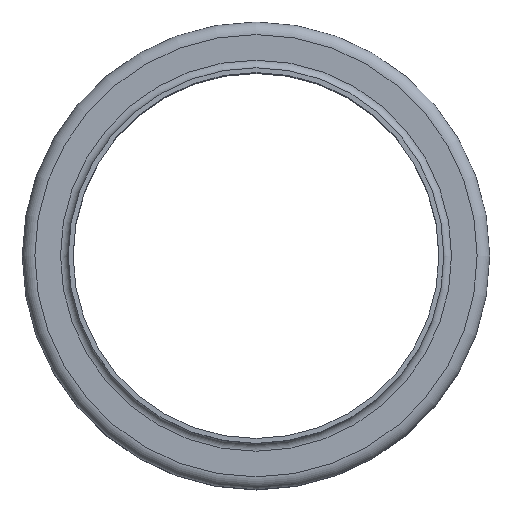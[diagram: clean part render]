
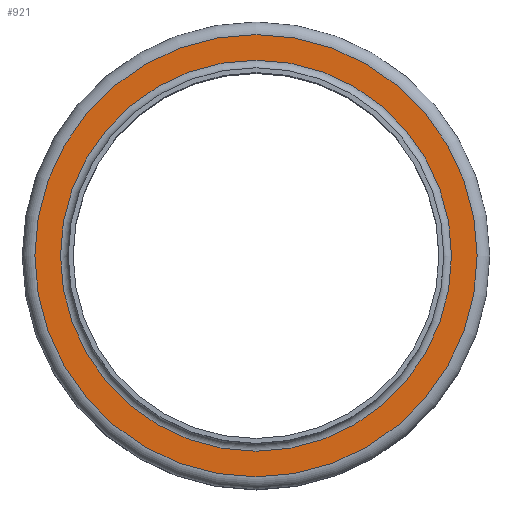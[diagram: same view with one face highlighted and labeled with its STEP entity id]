
A CAD part, top view. The second image highlights one B-rep face of the part: STEP entity #921.
In plain terms, the highlighted planar face has unit normal (0, 0, 1).
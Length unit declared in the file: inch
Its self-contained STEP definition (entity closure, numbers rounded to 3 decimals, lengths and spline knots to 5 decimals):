
#98=FACE_BOUND('',#272,.T.);
#165=FACE_OUTER_BOUND('',#271,.T.);
#271=EDGE_LOOP('',(#772));
#272=EDGE_LOOP('',(#773));
#385=CIRCLE('',#1110,2.405);
#386=CIRCLE('',#1112,2.72);
#466=VERTEX_POINT('',#1734);
#467=VERTEX_POINT('',#1738);
#571=EDGE_CURVE('',#466,#466,#385,.T.);
#572=EDGE_CURVE('',#467,#467,#386,.T.);
#772=ORIENTED_EDGE('',*,*,#572,.F.);
#773=ORIENTED_EDGE('',*,*,#571,.T.);
#854=PLANE('',#1111);
#921=ADVANCED_FACE('',(#165,#98),#854,.T.);
#1110=AXIS2_PLACEMENT_3D('',#1736,#1446,#1447);
#1111=AXIS2_PLACEMENT_3D('',#1737,#1448,#1449);
#1112=AXIS2_PLACEMENT_3D('',#1739,#1450,#1451);
#1446=DIRECTION('center_axis',(0.,0.,-1.));
#1447=DIRECTION('ref_axis',(1.,0.,0.));
#1448=DIRECTION('center_axis',(0.,0.,1.));
#1449=DIRECTION('ref_axis',(1.,0.,0.));
#1450=DIRECTION('center_axis',(0.,0.,-1.));
#1451=DIRECTION('ref_axis',(1.,0.,0.));
#1734=CARTESIAN_POINT('',(2.405,0.,-0.095));
#1736=CARTESIAN_POINT('Origin',(0.,0.,-0.095));
#1737=CARTESIAN_POINT('Origin',(0.,2.72,-0.095));
#1738=CARTESIAN_POINT('',(2.72,0.,-0.095));
#1739=CARTESIAN_POINT('Origin',(0.,0.,-0.095));
